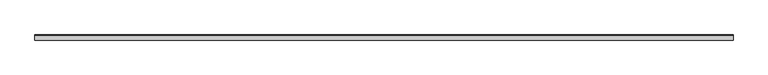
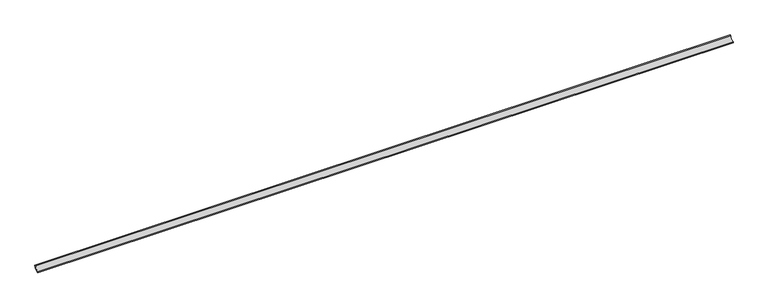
"""IFC4 building model written with IfcOpenShell, lengths in millimetres: proxy geometry, EXAGRES - Piscina Mediacaña : Publica_Azul_24.5x4cm."""

from ifc_helpers import new_model, si_unit, point, frame, frame_2d, origin, place, context, project, spatial, polyline, circle_curve, trimmed, segment, composite_curve, outline, extrude, source, transform, mapped, element, save


def generic_models_a90d31dc(model_context):
    return source(origin(), model_context, "Body", "SweptSolid", [
        extrude(outline(composite_curve([segment(polyline([(0.0, 23.9), (6.4, 23.9)]), True, "CONTINUOUS"), segment(trimmed(circle_curve(frame_2d((-23.9, 23.9)), 30.3), [point((6.4, 23.9))], [point((-23.9, -6.4))], False, "CARTESIAN"), True, "CONTINUOUS"), segment(polyline([(-23.9, -6.4), (-23.9, 0.0)]), True, "CONTINUOUS"), segment(trimmed(circle_curve(frame_2d((-23.9, 23.9)), 23.9), [point((-23.9, 0.0))], [point((0.0, 23.9))], True, "CARTESIAN"), True, "CONTINUOUS")], self_intersect=False)), frame((0.0, 0.0, 0.0), z_axis=(1.0, 0.0, 0.0), x_axis=(0.0, 1.0, 0.0)), (0.0, 0.0, 1.0), 4135.0),
    ])


if __name__ == "__main__":
    model = new_model("IFC4")
    model_context = context("Model", 3, world=origin())
    ifc_project = project(units=[si_unit("LENGTHUNIT", "METRE", prefix="MILLI")], contexts=[model_context])
    site = spatial("IfcSite", under=ifc_project)
    building = spatial("IfcBuilding", under=site)
    placement = place(None, origin())
    generic_models_shape = generic_models_a90d31dc(model_context)
    element("IfcBuildingElementProxy", 1, Name="EXAGRES - Piscina Mediacaña : Publica_Azul_24.5x4cm", ObjectType="EXAGRES - Piscina Mediacaña : Publica_Azul_24.5x4cm", at=placement, inside=building, context=model_context, shape_type="MappedRepresentation", body=[
        mapped(generic_models_shape, transform((0.0, 0.0, 0.0), x_axis=(1.0, 0.0, 0.0), y_axis=(0.0, 1.0, 0.0), z_axis=(0.0, 0.0, 1.0))),
    ])
    save(model, "model.ifc")
